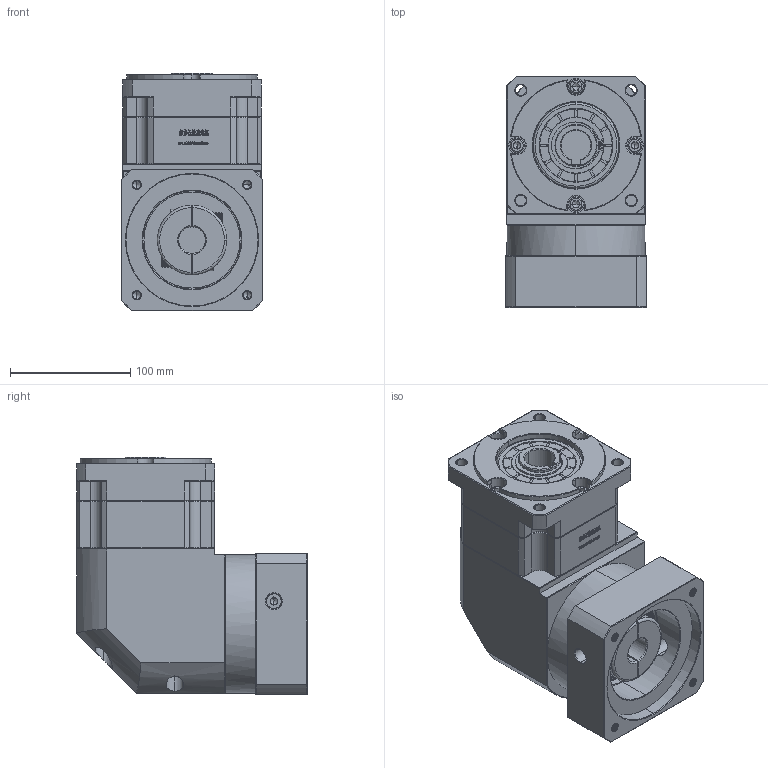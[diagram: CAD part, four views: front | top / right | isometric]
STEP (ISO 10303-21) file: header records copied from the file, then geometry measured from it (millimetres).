
FILE_DESCRIPTION (( 'STEP AP214' ), '1' );
FILE_NAME ('ZBR115A-K25-L1-22-110-130-M8.step', '2023-03-03T05:05:23', ( '' ), ( 'Microsoft' ), 'SwSTEP 2.0', 'SolidWorks 2016', '' );
FILE_SCHEMA (( 'AUTOMOTIVE_DESIGN' ));
Length unit declared in the file: millimetre
Products named in the file (1): ZBR115A-K25-L1-22-110-130-M8
Bounding box: 118 x 192.4 x 198 mm (x, y, z)
Volume: 2891332.9 mm3; surface area: 244943.6 mm2
Topology: 6 solids, 6 shells, 2927 faces, 7760 edges, 4979 vertices
Faces by surface type: plane 1552, bspline 598, cylinder 406, cone 363, torus 8
Entity records: 156332 total; most frequent: CARTESIAN_POINT 56158, ORIENTED_EDGE 15464, DIRECTION 11734, EDGE_CURVE 7732, VECTOR 5254, LINE 5254, VERTEX_POINT 4979, AXIS2_PLACEMENT_3D 3240
